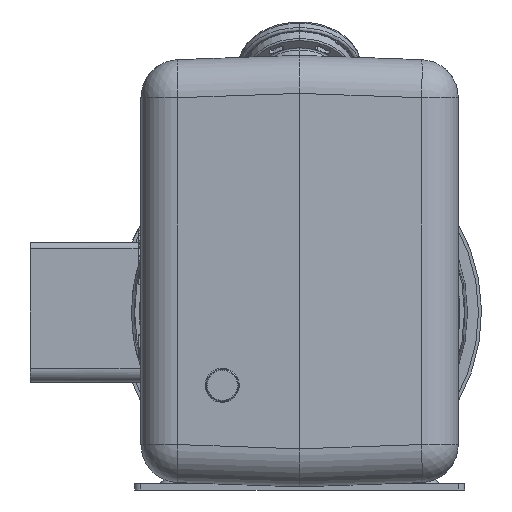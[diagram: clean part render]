
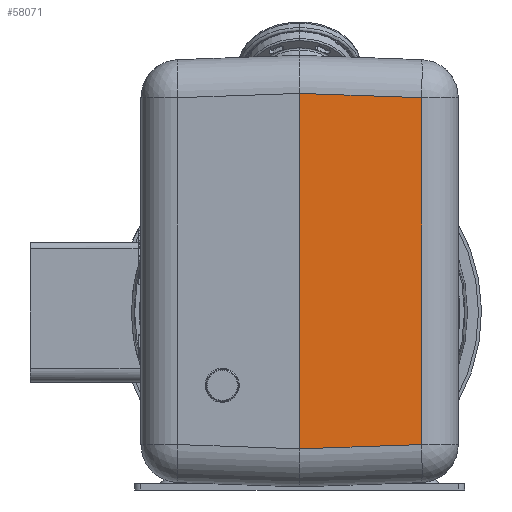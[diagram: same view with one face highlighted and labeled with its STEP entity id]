
A CAD part, front view. The second image highlights one B-rep face of the part: STEP entity #58071.
In plain terms, the highlighted planar face has unit normal (0.035, -0.999, 0).
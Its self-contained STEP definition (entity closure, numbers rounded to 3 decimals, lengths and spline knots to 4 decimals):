
#54614=DIRECTION('',(0.,0.,1.));
#54615=VECTOR('',#54614,7.0009);
#54616=CARTESIAN_POINT('',(0.,-13.255,-2.6905));
#54617=LINE('',#54616,#54615);
#54727=DIRECTION('',(-0.999,-0.035,0.035));
#54728=VECTOR('',#54727,2.4041);
#54729=CARTESIAN_POINT('',(2.4012,-13.1711,
4.2266));
#54730=LINE('',#54729,#54728);
#54740=DIRECTION('',(0.,0.,1.));
#54741=VECTOR('',#54740,6.8332);
#54742=CARTESIAN_POINT('',(2.4012,-13.1711,
-2.6066));
#54743=LINE('',#54742,#54741);
#54776=DIRECTION('',(0.999,0.035,0.035));
#54777=VECTOR('',#54776,2.4041);
#54778=CARTESIAN_POINT('',(0.,-13.255,-2.6905));
#54779=LINE('',#54778,#54777);
#56534=CARTESIAN_POINT('',(0.,-13.255,-2.6905));
#56535=VERTEX_POINT('',#56534);
#56536=CARTESIAN_POINT('',(2.4012,-13.1711,
-2.6066));
#56537=VERTEX_POINT('',#56536);
#56540=CARTESIAN_POINT('',(2.4012,-13.1711,
4.2266));
#56541=VERTEX_POINT('',#56540);
#56556=CARTESIAN_POINT('',(0.,-13.255,4.3105));
#56557=VERTEX_POINT('',#56556);
#58057=CARTESIAN_POINT('',(0.,-13.255,-3.44));
#58058=DIRECTION('',(-0.035,0.999,0.));
#58059=DIRECTION('',(0.,0.,-1.));
#58060=AXIS2_PLACEMENT_3D('',#58057,#58058,#58059);
#58061=PLANE('',#58060);
#58063=ORIENTED_EDGE('',*,*,#58062,.F.);
#58064=ORIENTED_EDGE('',*,*,#58044,.T.);
#58066=ORIENTED_EDGE('',*,*,#58065,.F.);
#58068=ORIENTED_EDGE('',*,*,#58067,.F.);
#58069=EDGE_LOOP('',(#58063,#58064,#58066,#58068));
#58070=FACE_OUTER_BOUND('',#58069,.F.);
#58071=ADVANCED_FACE('',(#58070),#58061,.F.);
#58044=EDGE_CURVE('',#56535,#56557,#54617,.T.);
#58062=EDGE_CURVE('',#56535,#56537,#54779,.T.);
#58065=EDGE_CURVE('',#56541,#56557,#54730,.T.);
#58067=EDGE_CURVE('',#56537,#56541,#54743,.T.);
